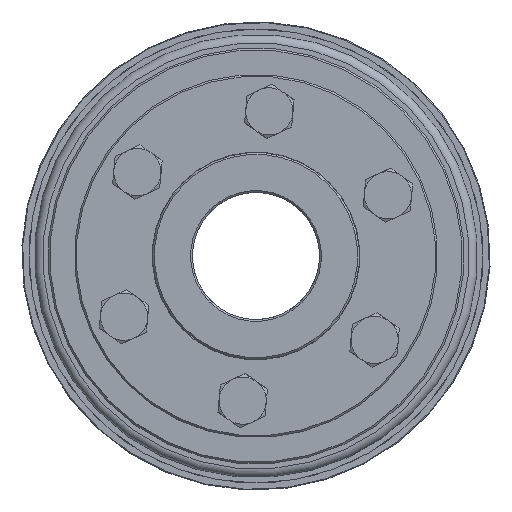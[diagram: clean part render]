
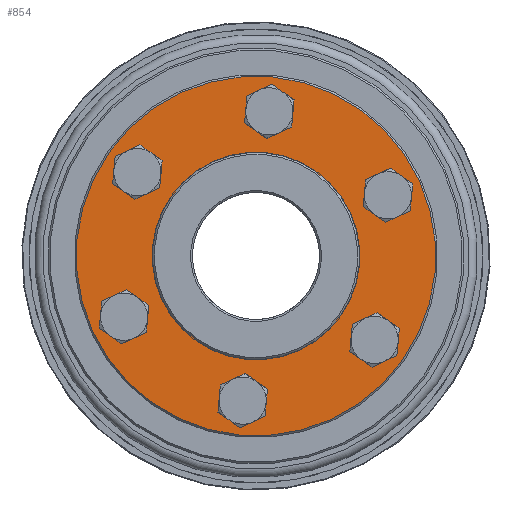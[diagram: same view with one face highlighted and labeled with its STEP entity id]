
A CAD part, left-side view. The second image highlights one B-rep face of the part: STEP entity #854.
In plain terms, the highlighted planar face has unit normal (-1, 0, 0).
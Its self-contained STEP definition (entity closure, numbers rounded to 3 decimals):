
#854 = ADVANCED_FACE( 'NONE', ( #1698, #1699, #1700, #1701, #1702, #1703, #1704, #1705 ), #1706, .F. );
#1698 = FACE_OUTER_BOUND( '', #2649, .T. );
#1699 = FACE_BOUND( '', #2650, .T. );
#1700 = FACE_BOUND( '', #2651, .T. );
#1701 = FACE_BOUND( '', #2652, .T. );
#1702 = FACE_BOUND( '', #2653, .T. );
#1703 = FACE_BOUND( '', #2654, .T. );
#1704 = FACE_BOUND( '', #2655, .T. );
#1705 = FACE_BOUND( '', #2656, .T. );
#1706 = PLANE( '', #2657 );
#2649 = EDGE_LOOP( '', ( #3831 ) );
#2650 = EDGE_LOOP( '', ( #3832 ) );
#2651 = EDGE_LOOP( '', ( #3833 ) );
#2652 = EDGE_LOOP( '', ( #3834 ) );
#2653 = EDGE_LOOP( '', ( #3835 ) );
#2654 = EDGE_LOOP( '', ( #3836 ) );
#2655 = EDGE_LOOP( '', ( #3837 ) );
#2656 = EDGE_LOOP( '', ( #3838 ) );
#2657 = AXIS2_PLACEMENT_3D( '', #3839, #3840, #3841 );
#3831 = ORIENTED_EDGE( '', *, *, #4912, .T. );
#3832 = ORIENTED_EDGE( '', *, *, #4868, .T. );
#3833 = ORIENTED_EDGE( '', *, *, #4913, .T. );
#3834 = ORIENTED_EDGE( '', *, *, #4914, .T. );
#3835 = ORIENTED_EDGE( '', *, *, #4568, .T. );
#3836 = ORIENTED_EDGE( '', *, *, #4594, .T. );
#3837 = ORIENTED_EDGE( '', *, *, #4611, .T. );
#3838 = ORIENTED_EDGE( '', *, *, #4915, .F. );
#3839 = CARTESIAN_POINT( '', ( 0., 28.5, 0. ) );
#3840 = DIRECTION( '', ( 1., 0., 0. ) );
#3841 = DIRECTION( '', ( 0., 1., 0. ) );
#4568 = EDGE_CURVE( 'NONE', #5098, #5098, #5099, .T. );
#4594 = EDGE_CURVE( 'NONE', #5143, #5143, #5144, .T. );
#4611 = EDGE_CURVE( 'NONE', #5172, #5172, #5173, .T. );
#4868 = EDGE_CURVE( 'NONE', #5574, #5574, #5575, .T. );
#4912 = EDGE_CURVE( 'NONE', #5639, #5639, #5640, .T. );
#4913 = EDGE_CURVE( 'NONE', #5641, #5641, #5642, .T. );
#4914 = EDGE_CURVE( 'NONE', #5643, #5643, #5644, .T. );
#4915 = EDGE_CURVE( 'NONE', #5645, #5645, #5646, .T. );
#5098 = VERTEX_POINT( '', #5870 );
#5099 = CIRCLE( '', #5871, 4.5 );
#5143 = VERTEX_POINT( '', #5933 );
#5144 = CIRCLE( '', #5934, 4.5 );
#5172 = VERTEX_POINT( '', #6033 );
#5173 = CIRCLE( '', #6034, 4.5 );
#5574 = VERTEX_POINT( '', #6608 );
#5575 = CIRCLE( '', #6609, 4.5 );
#5639 = VERTEX_POINT( '', #6735 );
#5640 = CIRCLE( '', #6736, 49.5 );
#5641 = VERTEX_POINT( '', #6737 );
#5642 = CIRCLE( '', #6738, 4.5 );
#5643 = VERTEX_POINT( '', #6739 );
#5644 = CIRCLE( '', #6740, 4.5 );
#5645 = VERTEX_POINT( '', #6741 );
#5646 = CIRCLE( '', #6742, 28.5 );
#5870 = CARTESIAN_POINT( '', ( 0., -20., -39.141 ) );
#5871 = AXIS2_PLACEMENT_3D( '', #7168, #7169, #7170 );
#5933 = CARTESIAN_POINT( '', ( 0., 20., -39.141 ) );
#5934 = AXIS2_PLACEMENT_3D( '', #7201, #7202, #7203 );
#6033 = CARTESIAN_POINT( '', ( 0., 40., -4.5 ) );
#6034 = AXIS2_PLACEMENT_3D( '', #7223, #7224, #7225 );
#6608 = CARTESIAN_POINT( '', ( 0., 20., 30.141 ) );
#6609 = AXIS2_PLACEMENT_3D( '', #7624, #7625, #7626 );
#6735 = CARTESIAN_POINT( '', ( 0., 0., -49.5 ) );
#6736 = AXIS2_PLACEMENT_3D( '', #7692, #7693, #7694 );
#6737 = CARTESIAN_POINT( '', ( 0., -20., 30.141 ) );
#6738 = AXIS2_PLACEMENT_3D( '', #7695, #7696, #7697 );
#6739 = CARTESIAN_POINT( '', ( 0., -40., -4.5 ) );
#6740 = AXIS2_PLACEMENT_3D( '', #7698, #7699, #7700 );
#6741 = CARTESIAN_POINT( '', ( 0., 0., 28.5 ) );
#6742 = AXIS2_PLACEMENT_3D( '', #7701, #7702, #7703 );
#7168 = CARTESIAN_POINT( '', ( 0., -20., -34.641 ) );
#7169 = DIRECTION( '', ( 1., 0., 0. ) );
#7170 = DIRECTION( '', ( 0., 0., -1. ) );
#7201 = CARTESIAN_POINT( '', ( 0., 20., -34.641 ) );
#7202 = DIRECTION( '', ( 1., 0., 0. ) );
#7203 = DIRECTION( '', ( 0., 0., -1. ) );
#7223 = CARTESIAN_POINT( '', ( 0., 40., 0. ) );
#7224 = DIRECTION( '', ( 1., 0., 0. ) );
#7225 = DIRECTION( '', ( 0., 0., -1. ) );
#7624 = CARTESIAN_POINT( '', ( 0., 20., 34.641 ) );
#7625 = DIRECTION( '', ( 1., 0., 0. ) );
#7626 = DIRECTION( '', ( 0., 0., -1. ) );
#7692 = CARTESIAN_POINT( '', ( 0., 0., 0. ) );
#7693 = DIRECTION( '', ( -1., 0., 0. ) );
#7694 = DIRECTION( '', ( 0., 0., -1. ) );
#7695 = CARTESIAN_POINT( '', ( 0., -20., 34.641 ) );
#7696 = DIRECTION( '', ( 1., 0., 0. ) );
#7697 = DIRECTION( '', ( 0., 0., -1. ) );
#7698 = CARTESIAN_POINT( '', ( 0., -40., 0. ) );
#7699 = DIRECTION( '', ( 1., 0., 0. ) );
#7700 = DIRECTION( '', ( 0., 0., -1. ) );
#7701 = CARTESIAN_POINT( '', ( 0., 0., 0. ) );
#7702 = DIRECTION( '', ( -1., 0., 0. ) );
#7703 = DIRECTION( '', ( 0., 0., 1. ) );
